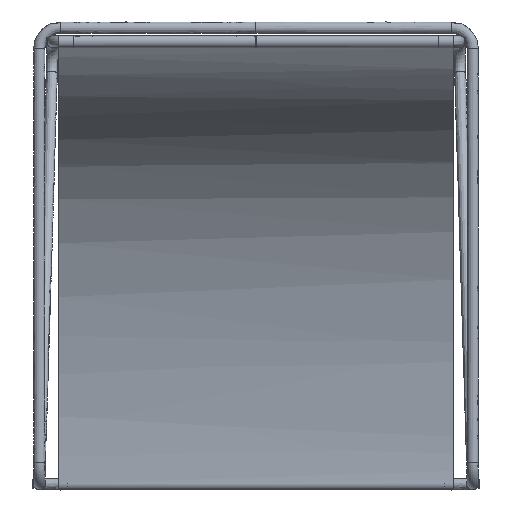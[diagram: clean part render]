
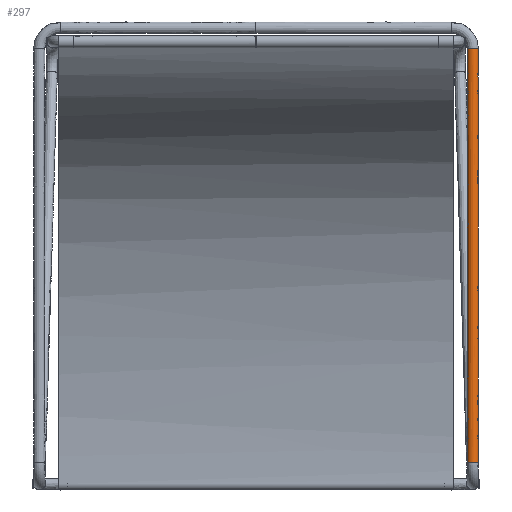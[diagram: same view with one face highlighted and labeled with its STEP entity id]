
A CAD part, top view. The second image highlights one B-rep face of the part: STEP entity #297.
In plain terms, the highlighted free-form (B-spline) face has degree [3, 2] with [4, 9] control points.
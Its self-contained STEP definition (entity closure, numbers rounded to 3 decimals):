
#297=ADVANCED_FACE('',(#965),#10817,.T.);
#965=FACE_OUTER_BOUND('',#1654,.T.);
#1654=EDGE_LOOP('',(#2544,#2545,#2546,#2547));
#2544=ORIENTED_EDGE('',*,*,#6194,.T.);
#2545=ORIENTED_EDGE('',*,*,#6195,.T.);
#2546=ORIENTED_EDGE('',*,*,#6194,.F.);
#2547=ORIENTED_EDGE('',*,*,#6193,.F.);
#6193=EDGE_CURVE('',#9549,#9549,#11489,.T.);
#6194=EDGE_CURVE('',#9549,#9550,#11490,.T.);
#6195=EDGE_CURVE('',#9550,#9550,#11491,.T.);
#9549=VERTEX_POINT('',#17037);
#9550=VERTEX_POINT('',#17038);
#10817=(
BOUNDED_SURFACE()
B_SPLINE_SURFACE(3,2,((#16473,#16474,#16475,#16476,#16477,#16478,#16479,
#16480,#16481),(#16482,#16483,#16484,#16485,#16486,#16487,#16488,#16489,
#16490),(#16491,#16492,#16493,#16494,#16495,#16496,#16497,#16498,#16499),
(#16500,#16501,#16502,#16503,#16504,#16505,#16506,#16507,#16508)),
 .UNSPECIFIED.,.F.,.F.,.F.)
B_SPLINE_SURFACE_WITH_KNOTS((4,4),(3,2,2,2,3),(0.,586.248),(0.,
12.566,25.133,37.699,50.265),
 .UNSPECIFIED.)
GEOMETRIC_REPRESENTATION_ITEM()
RATIONAL_B_SPLINE_SURFACE(((1.,0.707,1.,0.707,1.,
0.707,1.,0.707,1.),(1.,0.707,1.,0.707,
1.,0.707,1.,0.707,1.),(1.,0.707,1.,
0.707,1.,0.707,1.,0.707,1.),(1.,0.707,
1.,0.707,1.,0.707,1.,0.707,1.)))
REPRESENTATION_ITEM('')
SURFACE()
);
#11489=(
BOUNDED_CURVE()
B_SPLINE_CURVE(2,(#17123,#17124,#17125,#17126,#17127,#17128,#17129,#17130,
#17131),.UNSPECIFIED.,.T.,.F.)
B_SPLINE_CURVE_WITH_KNOTS((3,2,2,2,3),(0.,12.566,25.133,
37.699,50.265),.UNSPECIFIED.)
CURVE()
GEOMETRIC_REPRESENTATION_ITEM()
RATIONAL_B_SPLINE_CURVE((1.,0.707,1.,0.707,1.,0.707,
1.,0.707,1.))
REPRESENTATION_ITEM('')
);
#11490=(
BOUNDED_CURVE()
B_SPLINE_CURVE(3,(#17132,#17133,#17134,#17135),.UNSPECIFIED.,.F.,.F.)
B_SPLINE_CURVE_WITH_KNOTS((4,4),(0.,586.248),.UNSPECIFIED.)
CURVE()
GEOMETRIC_REPRESENTATION_ITEM()
RATIONAL_B_SPLINE_CURVE((1.,1.,1.,1.))
REPRESENTATION_ITEM('')
);
#11491=(
BOUNDED_CURVE()
B_SPLINE_CURVE(2,(#17136,#17137,#17138,#17139,#17140,#17141,#17142,#17143,
#17144),.UNSPECIFIED.,.T.,.F.)
B_SPLINE_CURVE_WITH_KNOTS((3,2,2,2,3),(0.,12.566,25.133,
37.699,50.265),.UNSPECIFIED.)
CURVE()
GEOMETRIC_REPRESENTATION_ITEM()
RATIONAL_B_SPLINE_CURVE((1.,0.707,1.,0.707,1.,0.707,
1.,0.707,1.))
REPRESENTATION_ITEM('')
);
#16473=CARTESIAN_POINT('',(575.193,-277.357,528.787));
#16474=CARTESIAN_POINT('',(567.193,-277.357,528.787));
#16475=CARTESIAN_POINT('',(567.193,-277.357,520.787));
#16476=CARTESIAN_POINT('',(567.193,-277.357,512.787));
#16477=CARTESIAN_POINT('',(575.193,-277.357,512.787));
#16478=CARTESIAN_POINT('',(583.193,-277.357,512.787));
#16479=CARTESIAN_POINT('',(583.193,-277.357,520.787));
#16480=CARTESIAN_POINT('',(583.193,-277.357,528.787));
#16481=CARTESIAN_POINT('',(575.193,-277.357,528.787));
#16482=CARTESIAN_POINT('',(575.193,-81.941,528.787));
#16483=CARTESIAN_POINT('',(567.193,-81.941,528.787));
#16484=CARTESIAN_POINT('',(567.193,-81.941,520.787));
#16485=CARTESIAN_POINT('',(567.193,-81.941,512.787));
#16486=CARTESIAN_POINT('',(575.193,-81.941,512.787));
#16487=CARTESIAN_POINT('',(583.193,-81.941,512.787));
#16488=CARTESIAN_POINT('',(583.193,-81.941,520.787));
#16489=CARTESIAN_POINT('',(583.193,-81.941,528.787));
#16490=CARTESIAN_POINT('',(575.193,-81.941,528.787));
#16491=CARTESIAN_POINT('',(575.193,113.475,528.787));
#16492=CARTESIAN_POINT('',(567.193,113.475,528.787));
#16493=CARTESIAN_POINT('',(567.193,113.475,520.787));
#16494=CARTESIAN_POINT('',(567.193,113.475,512.787));
#16495=CARTESIAN_POINT('',(575.193,113.475,512.787));
#16496=CARTESIAN_POINT('',(583.193,113.475,512.787));
#16497=CARTESIAN_POINT('',(583.193,113.475,520.787));
#16498=CARTESIAN_POINT('',(583.193,113.475,528.787));
#16499=CARTESIAN_POINT('',(575.193,113.475,528.787));
#16500=CARTESIAN_POINT('',(575.193,308.891,528.787));
#16501=CARTESIAN_POINT('',(567.193,308.891,528.787));
#16502=CARTESIAN_POINT('',(567.193,308.891,520.787));
#16503=CARTESIAN_POINT('',(567.193,308.891,512.787));
#16504=CARTESIAN_POINT('',(575.193,308.891,512.787));
#16505=CARTESIAN_POINT('',(583.193,308.891,512.787));
#16506=CARTESIAN_POINT('',(583.193,308.891,520.787));
#16507=CARTESIAN_POINT('',(583.193,308.891,528.787));
#16508=CARTESIAN_POINT('',(575.193,308.891,528.787));
#17037=CARTESIAN_POINT('',(575.193,-277.357,528.787));
#17038=CARTESIAN_POINT('',(575.193,308.891,528.787));
#17123=CARTESIAN_POINT('',(575.193,-277.357,528.787));
#17124=CARTESIAN_POINT('',(567.193,-277.357,528.787));
#17125=CARTESIAN_POINT('',(567.193,-277.357,520.787));
#17126=CARTESIAN_POINT('',(567.193,-277.357,512.787));
#17127=CARTESIAN_POINT('',(575.193,-277.357,512.787));
#17128=CARTESIAN_POINT('',(583.193,-277.357,512.787));
#17129=CARTESIAN_POINT('',(583.193,-277.357,520.787));
#17130=CARTESIAN_POINT('',(583.193,-277.357,528.787));
#17131=CARTESIAN_POINT('',(575.193,-277.357,528.787));
#17132=CARTESIAN_POINT('',(575.193,-277.357,528.787));
#17133=CARTESIAN_POINT('',(575.193,-81.941,528.787));
#17134=CARTESIAN_POINT('',(575.193,113.475,528.787));
#17135=CARTESIAN_POINT('',(575.193,308.891,528.787));
#17136=CARTESIAN_POINT('',(575.193,308.891,528.787));
#17137=CARTESIAN_POINT('',(567.193,308.891,528.787));
#17138=CARTESIAN_POINT('',(567.193,308.891,520.787));
#17139=CARTESIAN_POINT('',(567.193,308.891,512.787));
#17140=CARTESIAN_POINT('',(575.193,308.891,512.787));
#17141=CARTESIAN_POINT('',(583.193,308.891,512.787));
#17142=CARTESIAN_POINT('',(583.193,308.891,520.787));
#17143=CARTESIAN_POINT('',(583.193,308.891,528.787));
#17144=CARTESIAN_POINT('',(575.193,308.891,528.787));
